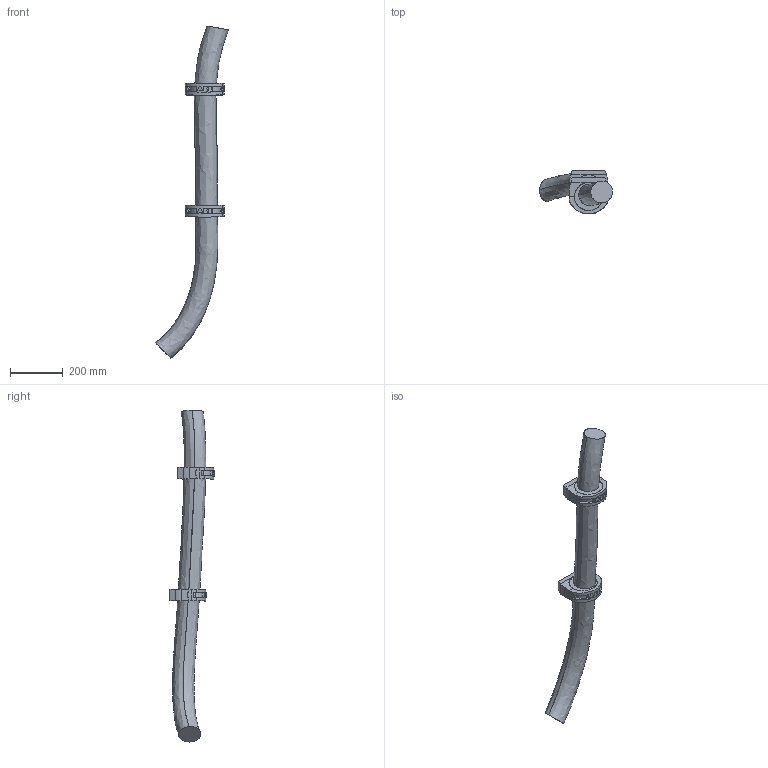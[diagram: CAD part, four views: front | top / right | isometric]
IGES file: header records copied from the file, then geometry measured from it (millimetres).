
Start section: SolidWorks IGES file using analytic representation for surfaces
Global section: file name: C:\Users\seamsto1\Desktop\Lättvikt\IRB6710-LID-SW_175kg-265_OC_00_SW_J\IRB6710-LID-SW_175kg-265_OC_00_IGES_J\IRB6710-LID-SW_175kg-265_OC_00_LINK02_CABLE.IGS; native system: SolidWorks 2020; preprocessor: SolidWorks 2020; author: SEAMSTO1; date: 230510.130509; units: millimetre
Bounding box: 277.81 x 167.99 x 1262.63 mm (x, y, z)
Surface area: 429805.6 mm2 (no closed solid volume)
Topology: 0 solids, 0 shells, 213 faces, 3846 edges, 3846 vertices
Faces by surface type: bspline 146, revolution 67
